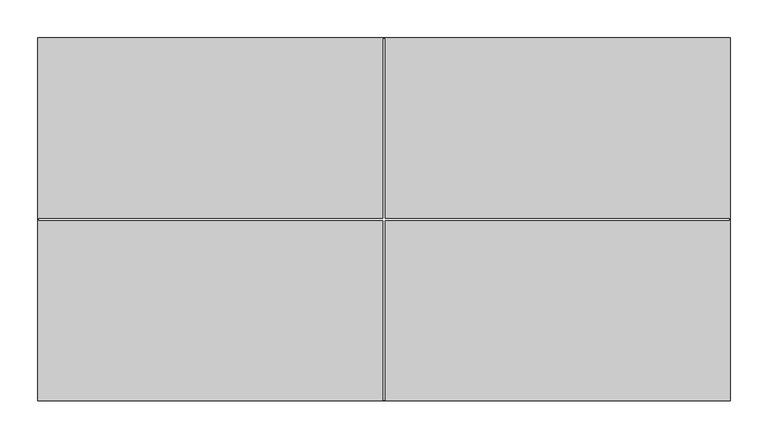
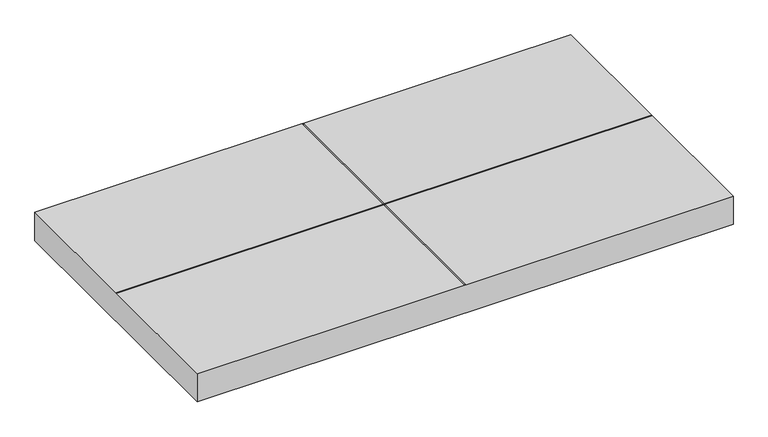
"""IFC4 building model written with IfcOpenShell, lengths in millimetres: furniture geometry, Steelcase - Universal Storage - Cushion Top - for Lateral File : Proud Steel Front - 18 7/8D x 36W."""

from ifc_helpers import new_model, si_unit, frame, origin, place, context, project, spatial, polyline, outline, extrude, source, transform, mapped, element, save


def furniture_21857a70(model_context):
    return source(origin(), model_context, "Body", "SweptSolid", [
        extrude(outline(polyline([(914.4, 0.0), (914.4, -479.552), (0.0, -479.552), (0.0, 0.0), (914.4, 0.0)]), holes=[polyline([(0.889, -238.887), (0.889, -240.665), (456.311, -240.665), (456.311, -478.6630015), (458.089, -478.6630015), (458.089, -240.665), (913.5109651, -240.665), (913.5109651, -238.887), (458.089, -238.887), (458.089, -0.889), (456.311, -0.889), (456.311, -238.887), (0.889, -238.887)])]), frame((0.0, 0.0, 533.4), z_axis=(0.0, 0.0, 1.0), x_axis=(1.0, 0.0, 0.0)), (0.0, 0.0, 1.0), 50.7999971),
    ])


if __name__ == "__main__":
    model = new_model("IFC4")
    model_context = context("Model", 3, world=origin())
    ifc_project = project(units=[si_unit("LENGTHUNIT", "METRE", prefix="MILLI")], contexts=[model_context])
    site = spatial("IfcSite", under=ifc_project)
    building = spatial("IfcBuilding", under=site)
    placement = place(None, origin())
    furniture_shape = furniture_21857a70(model_context)
    element("IfcFurniture", 1, ObjectType="Steelcase - Universal Storage - Cushion Top - for Lateral File : Proud Steel Front - 18 7/8D x 36W", at=placement, inside=building, context=model_context, shape_type="MappedRepresentation", body=[
        mapped(furniture_shape, transform((0.0, 0.0, 0.0), x_axis=(1.0, 0.0, 0.0), y_axis=(0.0, 1.0, 0.0), z_axis=(0.0, 0.0, 1.0))),
    ])
    save(model, "model.ifc")
